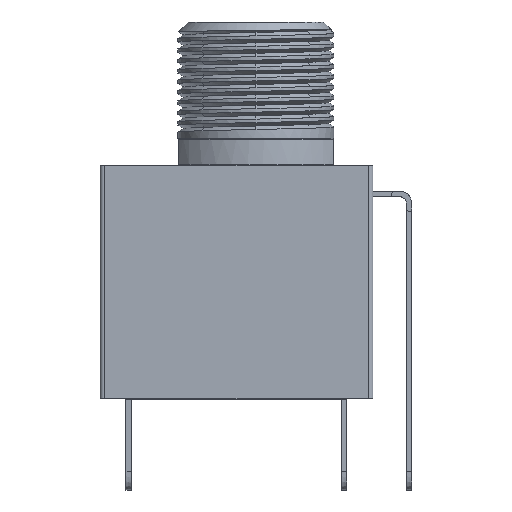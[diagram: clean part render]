
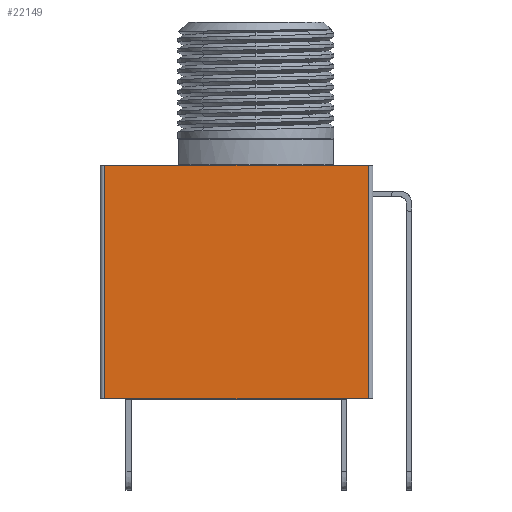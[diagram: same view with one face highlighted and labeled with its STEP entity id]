
A CAD part, left-side view. The second image highlights one B-rep face of the part: STEP entity #22149.
In plain terms, the highlighted planar face has unit normal (-1, 0, 0).
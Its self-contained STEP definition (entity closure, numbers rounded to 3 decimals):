
#22149 = ADVANCED_FACE('',(#22150),#22164,.T.);
#22150 = FACE_BOUND('',#22151,.T.);
#22151 = EDGE_LOOP('',(#22152,#22175,#22191,#22207));
#22152 = ORIENTED_EDGE('',*,*,#22153,.T.);
#22153 = EDGE_CURVE('',#22154,#22156,#22158,.T.);
#22154 = VERTEX_POINT('',#22155);
#22155 = CARTESIAN_POINT('',(-4.5,5.823,0.));
#22156 = VERTEX_POINT('',#22157);
#22157 = CARTESIAN_POINT('',(-4.5,-4.323,0.));
#22158 = SURFACE_CURVE('',#22159,(#22163),.PCURVE_S1.);
#22159 = LINE('',#22160,#22161);
#22160 = CARTESIAN_POINT('',(-4.5,5.823,0.));
#22161 = VECTOR('',#22162,1.);
#22162 = DIRECTION('',(0.,-1.,0.));
#22163 = PCURVE('',#22164,#22169);
#22164 = PLANE('',#22165);
#22165 = AXIS2_PLACEMENT_3D('',#22166,#22167,#22168);
#22166 = CARTESIAN_POINT('',(-4.5,-4.323,4.5));
#22167 = DIRECTION('',(-1.,0.,0.));
#22168 = DIRECTION('',(0.,0.,-1.));
#22169 = DEFINITIONAL_REPRESENTATION('',(#22170),#22174);
#22170 = LINE('',#22171,#22172);
#22171 = CARTESIAN_POINT('',(4.5,-10.145));
#22172 = VECTOR('',#22173,1.);
#22173 = DIRECTION('',(0.,1.));
#22174 = ( GEOMETRIC_REPRESENTATION_CONTEXT(2) 
PARAMETRIC_REPRESENTATION_CONTEXT() REPRESENTATION_CONTEXT('2D SPACE',''
  ) );
#22175 = ORIENTED_EDGE('',*,*,#22176,.T.);
#22176 = EDGE_CURVE('',#22156,#22177,#22179,.T.);
#22177 = VERTEX_POINT('',#22178);
#22178 = CARTESIAN_POINT('',(-4.5,-4.323,9.));
#22179 = SURFACE_CURVE('',#22180,(#22184),.PCURVE_S1.);
#22180 = LINE('',#22181,#22182);
#22181 = CARTESIAN_POINT('',(-4.5,-4.323,0.));
#22182 = VECTOR('',#22183,1.);
#22183 = DIRECTION('',(0.,0.,1.));
#22184 = PCURVE('',#22164,#22185);
#22185 = DEFINITIONAL_REPRESENTATION('',(#22186),#22190);
#22186 = LINE('',#22187,#22188);
#22187 = CARTESIAN_POINT('',(4.5,0.));
#22188 = VECTOR('',#22189,1.);
#22189 = DIRECTION('',(-1.,0.));
#22190 = ( GEOMETRIC_REPRESENTATION_CONTEXT(2) 
PARAMETRIC_REPRESENTATION_CONTEXT() REPRESENTATION_CONTEXT('2D SPACE',''
  ) );
#22191 = ORIENTED_EDGE('',*,*,#22192,.T.);
#22192 = EDGE_CURVE('',#22177,#22193,#22195,.T.);
#22193 = VERTEX_POINT('',#22194);
#22194 = CARTESIAN_POINT('',(-4.5,5.823,9.));
#22195 = SURFACE_CURVE('',#22196,(#22200),.PCURVE_S1.);
#22196 = LINE('',#22197,#22198);
#22197 = CARTESIAN_POINT('',(-4.5,-4.323,9.));
#22198 = VECTOR('',#22199,1.);
#22199 = DIRECTION('',(0.,1.,0.));
#22200 = PCURVE('',#22164,#22201);
#22201 = DEFINITIONAL_REPRESENTATION('',(#22202),#22206);
#22202 = LINE('',#22203,#22204);
#22203 = CARTESIAN_POINT('',(-4.5,0.));
#22204 = VECTOR('',#22205,1.);
#22205 = DIRECTION('',(0.,-1.));
#22206 = ( GEOMETRIC_REPRESENTATION_CONTEXT(2) 
PARAMETRIC_REPRESENTATION_CONTEXT() REPRESENTATION_CONTEXT('2D SPACE',''
  ) );
#22207 = ORIENTED_EDGE('',*,*,#22208,.T.);
#22208 = EDGE_CURVE('',#22193,#22154,#22209,.T.);
#22209 = SURFACE_CURVE('',#22210,(#22214),.PCURVE_S1.);
#22210 = LINE('',#22211,#22212);
#22211 = CARTESIAN_POINT('',(-4.5,5.823,9.));
#22212 = VECTOR('',#22213,1.);
#22213 = DIRECTION('',(0.,0.,-1.));
#22214 = PCURVE('',#22164,#22215);
#22215 = DEFINITIONAL_REPRESENTATION('',(#22216),#22220);
#22216 = LINE('',#22217,#22218);
#22217 = CARTESIAN_POINT('',(-4.5,-10.145));
#22218 = VECTOR('',#22219,1.);
#22219 = DIRECTION('',(1.,0.));
#22220 = ( GEOMETRIC_REPRESENTATION_CONTEXT(2) 
PARAMETRIC_REPRESENTATION_CONTEXT() REPRESENTATION_CONTEXT('2D SPACE',''
  ) );
